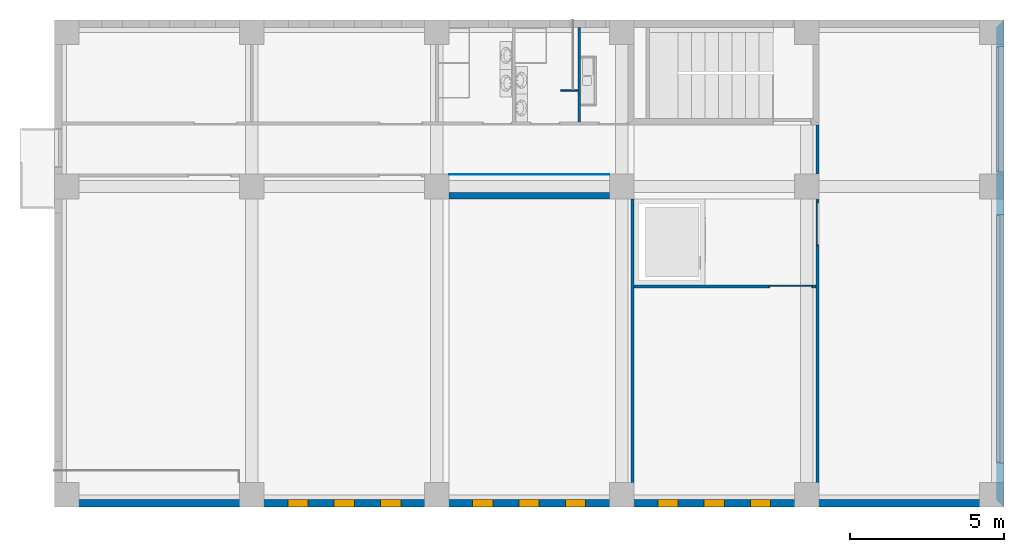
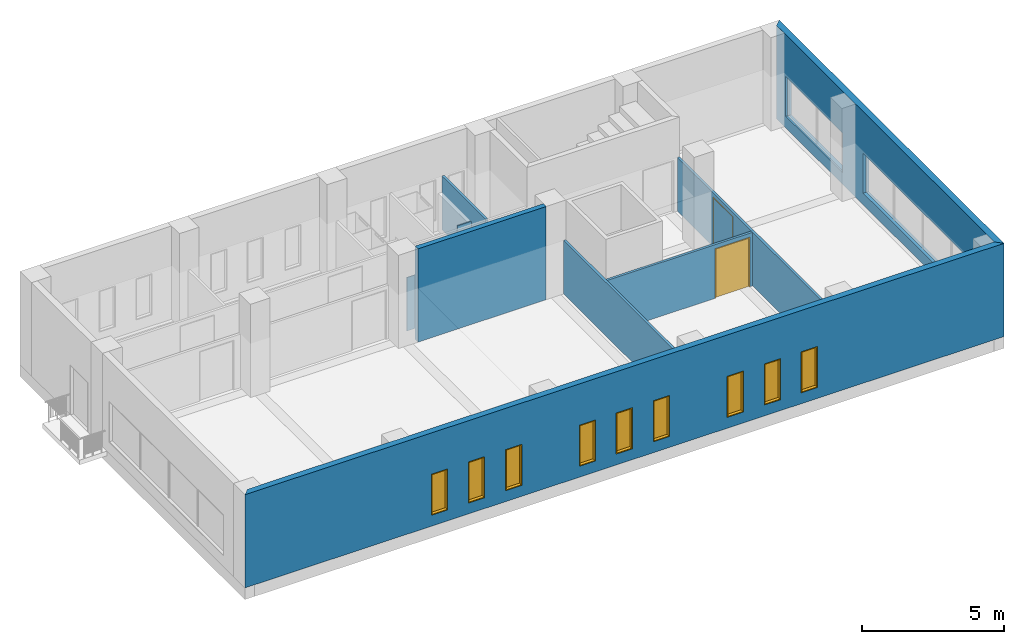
# One storey, part 3 of 14: 9 walls, 9 windows, 2 doors, 13 openings.
"""IFC2X3 building model written with IfcOpenShell, lengths in millimetres."""

from ifc_helpers import new_model, entity, si_unit, converted_unit, direction, frame, origin_with_axes, origin_2d_with_axis, place, context, project, spatial, polyline, rectangle, outline, extrude, open_shell, surface_model, source, transform, mapped, material, layer, layer_set, layer_usage, type_object, element, fill, save


model = new_model("IFC2X3")

# Units and contexts
model_context = context("Model", 3, precision=1e-05, world=origin_with_axes(), true_north=direction((0.0, 1.0)))
ifc_project = project(units=[si_unit("LENGTHUNIT", "METRE", prefix="MILLI"), si_unit("AREAUNIT", "SQUARE_METRE"), si_unit("VOLUMEUNIT", "CUBIC_METRE"), converted_unit("PLANEANGLEUNIT", "DEGREE", entity("IfcPlaneAngleMeasure", 0.017453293), si_unit("PLANEANGLEUNIT", "RADIAN"), dimensions=[0, 0, 0, 0, 0, 0, 0]), si_unit("SOLIDANGLEUNIT", "STERADIAN"), si_unit("MASSUNIT", "GRAM"), si_unit("TIMEUNIT", "SECOND"), si_unit("THERMODYNAMICTEMPERATUREUNIT", "DEGREE_CELSIUS"), si_unit("LUMINOUSINTENSITYUNIT", "LUMEN")], contexts=[model_context])

# Site, building, storey
site_placement = place(None, origin_with_axes())
site = spatial("IfcSite", under=ifc_project, at=site_placement, Name="\x83T\x83C\x83g", CompositionType="ELEMENT")
building_placement = place(site_placement, origin_with_axes())
building = spatial("IfcBuilding", under=site, at=building_placement, Name="Daitec-Sample 201208", CompositionType="ELEMENT")
storey_placement = place(building_placement, frame((0.0, 0.0, 8000.0), z_axis=(0.0, 0.0, 1.0), x_axis=(1.0, 0.0, 0.0)))
storey = spatial("IfcBuildingStorey", under=building, at=storey_placement, Name="3F", CompositionType="ELEMENT", Elevation=8000.0)

# Wall, openings, windows
ifc_material_1 = material(Name="\x83R\x83\x93\x83N\x83\x8a\x81[\x83g-\x8d\\\x91¢2")
ifc_layer_1 = layer(ifc_material_1, 250.0, ventilated="UNKNOWN")
ifc_layer_set_1 = layer_set([ifc_layer_1], Name="\x83R\x83\x93\x83N\x83\x8a\x81[\x83g-\x8d\\\x91¢2 250")
ifc_layer_usage_1 = layer_usage(ifc_layer_set_1, "AXIS2", "POSITIVE", 0.0)
wall_type_1 = type_object("IfcWallType", Name="\x83R\x83\x93\x83N\x83\x8a\x81[\x83g-\x8d\\\x91¢2 250", PredefinedType="NOTDEFINED")
wall_1_placement = place(storey_placement, frame((6100.0, 8000.0, 0.0), z_axis=(0.0, 0.0, 1.0), x_axis=(1.0, 0.0, 0.0)))
wall_1 = element("IfcWallStandardCase", 1, at=wall_1_placement, inside=storey, type_object=wall_type_1, material=ifc_layer_usage_1, Name="W6", context=model_context, shape_type="SweptSolid", body=[
    extrude(outline(polyline([(0.0, 0.0), (30800.0, 0.0), (30550.0, 250.0), (250.0, 250.0), (0.0, 0.0)])), origin_with_axes(), (0.0, 0.0, 1.0), 4000.0),
])
opening_1_placement = place(wall_1_placement, frame((7901.9298, 0.0, 500.0), z_axis=(0.0, 0.0, 1.0), x_axis=(1.0, 0.0, 0.0)))
opening_1 = element("IfcOpeningElement", 2, at=opening_1_placement, cuts=wall_1, context=model_context, shape_type="SweptSolid", body=[
    extrude(rectangle(XDim=600.0, YDim=1700.0, at=origin_2d_with_axis()), frame((0.0, -1.0, 850.0), z_axis=(0.0, 1.0, 0.0), x_axis=(1.0, 0.0, 0.0)), (0.0, 0.0, 1.0), 252.0),
    extrude(rectangle(XDim=600.0, YDim=1700.0, at=origin_2d_with_axis()), frame((0.0, 1.0, 850.0), z_axis=(0.0, -1.0, 0.0), x_axis=(1.0, 0.0, 0.0)), (0.0, 0.0, 1.0), 252.0),
    extrude(rectangle(XDim=660.0, YDim=1760.0, at=origin_2d_with_axis()), frame((0.0, 126.0, 850.0), z_axis=(0.0, -1.0, 0.0), x_axis=(1.0, 0.0, 0.0)), (0.0, 0.0, 1.0), 252.0),
])
opening_2_placement = place(wall_1_placement, frame((9399.6597, 0.0, 500.0), z_axis=(0.0, 0.0, 1.0), x_axis=(1.0, 0.0, 0.0)))
opening_2 = element("IfcOpeningElement", 3, at=opening_2_placement, cuts=wall_1, context=model_context, shape_type="SweptSolid", body=[
    extrude(rectangle(XDim=600.0, YDim=1700.0, at=origin_2d_with_axis()), frame((0.0, 251.0, 850.0), z_axis=(0.0, -1.0, 0.0), x_axis=(1.0, 0.0, 0.0)), (0.0, 0.0, 1.0), 252.0),
    extrude(rectangle(XDim=600.0, YDim=1700.0, at=origin_2d_with_axis()), frame((0.0, 249.0, 850.0), z_axis=(0.0, 1.0, 0.0), x_axis=(1.0, 0.0, 0.0)), (0.0, 0.0, 1.0), 252.0),
    extrude(rectangle(XDim=660.0, YDim=1760.0, at=origin_2d_with_axis()), frame((0.0, 124.0, 850.0), z_axis=(0.0, 1.0, 0.0), x_axis=(1.0, 0.0, 0.0)), (0.0, 0.0, 1.0), 252.0),
])
opening_3_placement = place(wall_1_placement, frame((10907.186, 0.0, 500.0), z_axis=(0.0, 0.0, 1.0), x_axis=(1.0, 0.0, 0.0)))
opening_3 = element("IfcOpeningElement", 4, at=opening_3_placement, cuts=wall_1, context=model_context, shape_type="SweptSolid", body=[
    extrude(rectangle(XDim=600.0, YDim=1700.0, at=origin_2d_with_axis()), frame((0.0, -1.0, 850.0), z_axis=(0.0, 1.0, 0.0), x_axis=(1.0, 0.0, 0.0)), (0.0, 0.0, 1.0), 252.0),
    extrude(rectangle(XDim=600.0, YDim=1700.0, at=origin_2d_with_axis()), frame((0.0, 1.0, 850.0), z_axis=(0.0, -1.0, 0.0), x_axis=(1.0, 0.0, 0.0)), (0.0, 0.0, 1.0), 252.0),
    extrude(rectangle(XDim=660.0, YDim=1760.0, at=origin_2d_with_axis()), frame((0.0, 126.0, 850.0), z_axis=(0.0, -1.0, 0.0), x_axis=(1.0, 0.0, 0.0)), (0.0, 0.0, 1.0), 252.0),
])
opening_4_placement = place(wall_1_placement, frame((13897.963, 0.0, 500.0), z_axis=(0.0, 0.0, 1.0), x_axis=(1.0, 0.0, 0.0)))
opening_4 = element("IfcOpeningElement", 5, at=opening_4_placement, cuts=wall_1, context=model_context, shape_type="SweptSolid", body=[
    extrude(rectangle(XDim=600.0, YDim=1700.0, at=origin_2d_with_axis()), frame((0.0, -1.0, 850.0), z_axis=(0.0, 1.0, 0.0), x_axis=(1.0, 0.0, 0.0)), (0.0, 0.0, 1.0), 252.0),
    extrude(rectangle(XDim=600.0, YDim=1700.0, at=origin_2d_with_axis()), frame((0.0, 1.0, 850.0), z_axis=(0.0, -1.0, 0.0), x_axis=(1.0, 0.0, 0.0)), (0.0, 0.0, 1.0), 252.0),
    extrude(rectangle(XDim=660.0, YDim=1760.0, at=origin_2d_with_axis()), frame((0.0, 126.0, 850.0), z_axis=(0.0, -1.0, 0.0), x_axis=(1.0, 0.0, 0.0)), (0.0, 0.0, 1.0), 252.0),
])
opening_5_placement = place(wall_1_placement, frame((15395.738, 0.0, 500.0), z_axis=(0.0, 0.0, 1.0), x_axis=(1.0, 0.0, 0.0)))
opening_5 = element("IfcOpeningElement", 6, at=opening_5_placement, cuts=wall_1, context=model_context, shape_type="SweptSolid", body=[
    extrude(rectangle(XDim=600.0, YDim=1700.0, at=origin_2d_with_axis()), frame((0.0, -1.0, 850.0), z_axis=(0.0, 1.0, 0.0), x_axis=(1.0, 0.0, 0.0)), (0.0, 0.0, 1.0), 252.0),
    extrude(rectangle(XDim=600.0, YDim=1700.0, at=origin_2d_with_axis()), frame((0.0, 1.0, 850.0), z_axis=(0.0, -1.0, 0.0), x_axis=(1.0, 0.0, 0.0)), (0.0, 0.0, 1.0), 252.0),
    extrude(rectangle(XDim=660.0, YDim=1760.0, at=origin_2d_with_axis()), frame((0.0, 126.0, 850.0), z_axis=(0.0, -1.0, 0.0), x_axis=(1.0, 0.0, 0.0)), (0.0, 0.0, 1.0), 252.0),
])
opening_6_placement = place(wall_1_placement, frame((16903.823, 0.0, 500.0), z_axis=(0.0, 0.0, 1.0), x_axis=(1.0, 0.0, 0.0)))
opening_6 = element("IfcOpeningElement", 7, at=opening_6_placement, cuts=wall_1, context=model_context, shape_type="SweptSolid", body=[
    extrude(rectangle(XDim=600.0, YDim=1700.0, at=origin_2d_with_axis()), frame((0.0, -1.0, 850.0), z_axis=(0.0, 1.0, 0.0), x_axis=(1.0, 0.0, 0.0)), (0.0, 0.0, 1.0), 252.0),
    extrude(rectangle(XDim=600.0, YDim=1700.0, at=origin_2d_with_axis()), frame((0.0, 1.0, 850.0), z_axis=(0.0, -1.0, 0.0), x_axis=(1.0, 0.0, 0.0)), (0.0, 0.0, 1.0), 252.0),
    extrude(rectangle(XDim=660.0, YDim=1760.0, at=origin_2d_with_axis()), frame((0.0, 126.0, 850.0), z_axis=(0.0, -1.0, 0.0), x_axis=(1.0, 0.0, 0.0)), (0.0, 0.0, 1.0), 252.0),
])
opening_7_placement = place(wall_1_placement, frame((19901.783, 0.0, 500.0), z_axis=(0.0, 0.0, 1.0), x_axis=(1.0, 0.0, 0.0)))
opening_7 = element("IfcOpeningElement", 8, at=opening_7_placement, cuts=wall_1, context=model_context, shape_type="SweptSolid", body=[
    extrude(rectangle(XDim=600.0, YDim=1700.0, at=origin_2d_with_axis()), frame((0.0, -1.0, 850.0), z_axis=(0.0, 1.0, 0.0), x_axis=(1.0, 0.0, 0.0)), (0.0, 0.0, 1.0), 252.0),
    extrude(rectangle(XDim=600.0, YDim=1700.0, at=origin_2d_with_axis()), frame((0.0, 1.0, 850.0), z_axis=(0.0, -1.0, 0.0), x_axis=(1.0, 0.0, 0.0)), (0.0, 0.0, 1.0), 252.0),
    extrude(rectangle(XDim=660.0, YDim=1760.0, at=origin_2d_with_axis()), frame((0.0, 126.0, 850.0), z_axis=(0.0, -1.0, 0.0), x_axis=(1.0, 0.0, 0.0)), (0.0, 0.0, 1.0), 252.0),
])
opening_8_placement = place(wall_1_placement, frame((21404.615, 0.0, 500.0), z_axis=(0.0, 0.0, 1.0), x_axis=(1.0, 0.0, 0.0)))
opening_8 = element("IfcOpeningElement", 9, at=opening_8_placement, cuts=wall_1, context=model_context, shape_type="SweptSolid", body=[
    extrude(rectangle(XDim=600.0, YDim=1700.0, at=origin_2d_with_axis()), frame((0.0, -1.0, 850.0), z_axis=(0.0, 1.0, 0.0), x_axis=(1.0, 0.0, 0.0)), (0.0, 0.0, 1.0), 252.0),
    extrude(rectangle(XDim=600.0, YDim=1700.0, at=origin_2d_with_axis()), frame((0.0, 1.0, 850.0), z_axis=(0.0, -1.0, 0.0), x_axis=(1.0, 0.0, 0.0)), (0.0, 0.0, 1.0), 252.0),
    extrude(rectangle(XDim=660.0, YDim=1760.0, at=origin_2d_with_axis()), frame((0.0, 126.0, 850.0), z_axis=(0.0, -1.0, 0.0), x_axis=(1.0, 0.0, 0.0)), (0.0, 0.0, 1.0), 252.0),
])
opening_9_placement = place(wall_1_placement, frame((22900.017, 0.0, 500.0), z_axis=(0.0, 0.0, 1.0), x_axis=(1.0, 0.0, 0.0)))
opening_9 = element("IfcOpeningElement", 10, at=opening_9_placement, cuts=wall_1, context=model_context, shape_type="SweptSolid", body=[
    extrude(rectangle(XDim=600.0, YDim=1700.0, at=origin_2d_with_axis()), frame((0.0, 251.0, 850.0), z_axis=(0.0, -1.0, 0.0), x_axis=(1.0, 0.0, 0.0)), (0.0, 0.0, 1.0), 252.0),
    extrude(rectangle(XDim=600.0, YDim=1700.0, at=origin_2d_with_axis()), frame((0.0, 249.0, 850.0), z_axis=(0.0, 1.0, 0.0), x_axis=(1.0, 0.0, 0.0)), (0.0, 0.0, 1.0), 252.0),
    extrude(rectangle(XDim=660.0, YDim=1760.0, at=origin_2d_with_axis()), frame((0.0, 124.0, 850.0), z_axis=(0.0, 1.0, 0.0), x_axis=(1.0, 0.0, 0.0)), (0.0, 0.0, 1.0), 252.0),
])
ifc_material_2 = material(Name="\x94w\x8ci")
window_style = type_object("IfcWindowStyle", ConstructionType="NOTDEFINED", OperationType="NOTDEFINED", ParameterTakesPrecedence=False, Sizeable=False)
shared_shape_1 = source(origin_with_axes(), model_context, "Body", "SurfaceModel", [
    surface_model("IfcShellBasedSurfaceModel", [(300.0, 125.0, 0.0), (-300.0, 125.0, 0.0), (-300.0, 125.0, 1700.0), (300.0, 125.0, 1700.0), (260.0, 125.0, 40.0), (260.0, 125.0, 1660.0), (-260.0, 125.0, 1660.0), (-260.0, 125.0, 40.0)], [open_shell([[[0, 1, 2, 3], [4, 5, 6, 7]]])]),
    surface_model("IfcShellBasedSurfaceModel", [(260.0, 125.0, 40.0), (-260.0, 125.0, 40.0), (-260.0, 125.0, 1660.0), (260.0, 125.0, 1660.0)], [open_shell([[[0, 1, 2, 3]]])]),
    surface_model("IfcShellBasedSurfaceModel", [(330.0, 250.0, -30.0), (-330.0, 250.0, -30.0), (-330.0, 250.0, 1730.0), (330.0, 250.0, 1730.0), (300.0, 250.0, 0.0), (300.0, 250.0, 1700.0), (-300.0, 250.0, 1700.0), (-300.0, 250.0, 0.0)], [open_shell([[[0, 1, 2, 3], [4, 5, 6, 7]]])]),
    surface_model("IfcShellBasedSurfaceModel", [(330.0, 0.0, -30.0), (-330.0, 0.0, -30.0), (-330.0, 0.0, 1730.0), (330.0, 0.0, 1730.0), (300.0, 0.0, 0.0), (300.0, 0.0, 1700.0), (-300.0, 0.0, 1700.0), (-300.0, 0.0, 0.0)], [open_shell([[[0, 1, 2, 3], [4, 5, 6, 7]]])]),
    surface_model("IfcShellBasedSurfaceModel", [(330.0, 250.0, -30.0), (330.0, 0.0, -30.0), (-330.0, 0.0, -30.0), (-330.0, 250.0, -30.0), (330.0, 250.0, 1730.0), (330.0, 0.0, 1730.0), (-330.0, 0.0, 1730.0), (-330.0, 250.0, 1730.0)], [open_shell([[[0, 1, 2, 3]], [[4, 5, 1, 0]], [[3, 2, 6, 7]], [[7, 6, 5, 4]]])]),
    surface_model("IfcShellBasedSurfaceModel", [(300.0, 250.0, 0.0), (300.0, 0.0, 0.0), (-300.0, 0.0, 0.0), (-300.0, 250.0, 0.0), (300.0, 250.0, 1700.0), (300.0, 0.0, 1700.0), (-300.0, 0.0, 1700.0), (-300.0, 250.0, 1700.0)], [open_shell([[[0, 1, 2, 3]], [[4, 5, 1, 0]], [[3, 2, 6, 7]], [[7, 6, 5, 4]]])]),
])
window_1_placement = place(opening_1_placement, frame((300.0, 0.0, 0.0), z_axis=(0.0, 0.0, 1.0), x_axis=(-1.0, 0.0, 0.0)))
window_1 = element("IfcWindow", 11, at=window_1_placement, inside=storey, type_object=window_style, material=ifc_material_2, Name="AW1", OverallHeight=1700.0, OverallWidth=600.0, context=model_context, shape_type="MappedRepresentation", body=[
    mapped(shared_shape_1, transform((300.0, -250.0, 0.0))),
])
fill(opening_1, window_1)
window_2_placement = place(opening_3_placement, frame((300.0, 0.0, 0.0), z_axis=(0.0, 0.0, 1.0), x_axis=(-1.0, 0.0, 0.0)))
window_2 = element("IfcWindow", 12, at=window_2_placement, inside=storey, type_object=window_style, material=ifc_material_2, Name="AW3", OverallHeight=1700.0, OverallWidth=600.0, context=model_context, shape_type="MappedRepresentation", body=[
    mapped(shared_shape_1, transform((300.0, -250.0, 0.0))),
])
fill(opening_3, window_2)
window_3_placement = place(opening_8_placement, frame((300.0, 0.0, 0.0), z_axis=(0.0, 0.0, 1.0), x_axis=(-1.0, 0.0, 0.0)))
window_3 = element("IfcWindow", 13, at=window_3_placement, inside=storey, type_object=window_style, material=ifc_material_2, Name="AW1", OverallHeight=1700.0, OverallWidth=600.0, context=model_context, shape_type="MappedRepresentation", body=[
    mapped(shared_shape_1, transform((300.0, -250.0, 0.0))),
])
fill(opening_8, window_3)
shared_shape_2 = source(origin_with_axes(), model_context, "Body", "SurfaceModel", [
    surface_model("IfcShellBasedSurfaceModel", [(300.0, -125.0, 0.0), (-300.0, -125.0, 0.0), (-300.0, -125.0, 1700.0), (300.0, -125.0, 1700.0), (260.0, -125.0, 40.0), (260.0, -125.0, 1660.0), (-260.0, -125.0, 1660.0), (-260.0, -125.0, 40.0)], [open_shell([[[0, 1, 2, 3], [4, 5, 6, 7]]])]),
    surface_model("IfcShellBasedSurfaceModel", [(260.0, -125.0, 40.0), (-260.0, -125.0, 40.0), (-260.0, -125.0, 1660.0), (260.0, -125.0, 1660.0)], [open_shell([[[0, 1, 2, 3]]])]),
    surface_model("IfcShellBasedSurfaceModel", [(330.0, 0.0, -30.0), (-330.0, 0.0, -30.0), (-330.0, 0.0, 1730.0), (330.0, 0.0, 1730.0), (300.0, 0.0, 0.0), (300.0, 0.0, 1700.0), (-300.0, 0.0, 1700.0), (-300.0, 0.0, 0.0)], [open_shell([[[0, 1, 2, 3], [4, 5, 6, 7]]])]),
    surface_model("IfcShellBasedSurfaceModel", [(330.0, -250.0, -30.0), (-330.0, -250.0, -30.0), (-330.0, -250.0, 1730.0), (330.0, -250.0, 1730.0), (300.0, -250.0, 0.0), (300.0, -250.0, 1700.0), (-300.0, -250.0, 1700.0), (-300.0, -250.0, 0.0)], [open_shell([[[0, 1, 2, 3], [4, 5, 6, 7]]])]),
    surface_model("IfcShellBasedSurfaceModel", [(330.0, 0.0, -30.0), (330.0, -250.0, -30.0), (-330.0, -250.0, -30.0), (-330.0, 0.0, -30.0), (330.0, 0.0, 1730.0), (330.0, -250.0, 1730.0), (-330.0, -250.0, 1730.0), (-330.0, 0.0, 1730.0)], [open_shell([[[0, 1, 2, 3]], [[4, 5, 1, 0]], [[3, 2, 6, 7]], [[7, 6, 5, 4]]])]),
    surface_model("IfcShellBasedSurfaceModel", [(300.0, 0.0, 0.0), (300.0, -250.0, 0.0), (-300.0, -250.0, 0.0), (-300.0, 0.0, 0.0), (300.0, 0.0, 1700.0), (300.0, -250.0, 1700.0), (-300.0, -250.0, 1700.0), (-300.0, 0.0, 1700.0)], [open_shell([[[0, 1, 2, 3]], [[4, 5, 1, 0]], [[3, 2, 6, 7]], [[7, 6, 5, 4]]])]),
])
window_4_placement = place(opening_2_placement, frame((300.0, 0.0, 0.0), z_axis=(0.0, 0.0, 1.0), x_axis=(-1.0, 0.0, 0.0)))
window_4 = element("IfcWindow", 14, at=window_4_placement, inside=storey, type_object=window_style, material=ifc_material_2, Name="AW2", OverallHeight=1700.0, OverallWidth=600.0, context=model_context, shape_type="MappedRepresentation", body=[
    mapped(shared_shape_2, transform((300.0, -250.0, 0.0), x_axis=(-1.0, 0.0, 0.0), y_axis=(0.0, -1.0, 0.0), z_axis=(0.0, 0.0, 1.0))),
])
fill(opening_2, window_4)
window_5_placement = place(opening_9_placement, frame((300.0, 0.0, 0.0), z_axis=(0.0, 0.0, 1.0), x_axis=(-1.0, 0.0, 0.0)))
window_5 = element("IfcWindow", 15, at=window_5_placement, inside=storey, type_object=window_style, material=ifc_material_2, Name="AW2", OverallHeight=1700.0, OverallWidth=600.0, context=model_context, shape_type="MappedRepresentation", body=[
    mapped(shared_shape_2, transform((300.0, -250.0, 0.0), x_axis=(-1.0, 0.0, 0.0), y_axis=(0.0, -1.0, 0.0), z_axis=(0.0, 0.0, 1.0))),
])
fill(opening_9, window_5)
shared_shape_3 = source(origin_with_axes(), model_context, "Body", "SurfaceModel", [
    surface_model("IfcShellBasedSurfaceModel", [(300.0, -125.0, 0.0), (-300.0, -125.0, 0.0), (-300.0, -125.0, 1700.0), (300.0, -125.0, 1700.0), (260.0, -125.0, 40.0), (260.0, -125.0, 1660.0), (-260.0, -125.0, 1660.0), (-260.0, -125.0, 40.0)], [open_shell([[[0, 1, 2, 3], [4, 5, 6, 7]]])]),
    surface_model("IfcShellBasedSurfaceModel", [(260.0, -125.0, 40.0), (-260.0, -125.0, 40.0), (-260.0, -125.0, 1660.0), (260.0, -125.0, 1660.0)], [open_shell([[[0, 1, 2, 3]]])]),
    surface_model("IfcShellBasedSurfaceModel", [(330.0, 0.0, -30.0), (-330.0, 0.0, -30.0), (-330.0, 0.0, 1730.0), (330.0, 0.0, 1730.0), (300.0, 0.0, 0.0), (300.0, 0.0, 1700.0), (-300.0, 0.0, 1700.0), (-300.0, 0.0, 0.0)], [open_shell([[[0, 1, 2, 3], [4, 5, 6, 7]]])]),
    surface_model("IfcShellBasedSurfaceModel", [(330.0, -250.0, -30.0), (-330.0, -250.0, -30.0), (-330.0, -250.0, 1730.0), (330.0, -250.0, 1730.0), (300.0, -250.0, 0.0), (300.0, -250.0, 1700.0), (-300.0, -250.0, 1700.0), (-300.0, -250.0, 0.0)], [open_shell([[[0, 1, 2, 3], [4, 5, 6, 7]]])]),
    surface_model("IfcShellBasedSurfaceModel", [(330.0, 0.0, -30.0), (330.0, -250.0, -30.0), (-330.0, -250.0, -30.0), (-330.0, 0.0, -30.0), (330.0, 0.0, 1730.0), (330.0, -250.0, 1730.0), (-330.0, -250.0, 1730.0), (-330.0, 0.0, 1730.0)], [open_shell([[[0, 1, 2, 3]], [[4, 5, 1, 0]], [[3, 2, 6, 7]], [[7, 6, 5, 4]]])]),
    surface_model("IfcShellBasedSurfaceModel", [(300.0, 0.0, 0.0), (300.0, -250.0, 0.0), (-300.0, -250.0, 0.0), (-300.0, 0.0, 0.0), (300.0, 0.0, 1700.0), (300.0, -250.0, 1700.0), (-300.0, -250.0, 1700.0), (-300.0, 0.0, 1700.0)], [open_shell([[[0, 1, 2, 3]], [[4, 5, 1, 0]], [[3, 2, 6, 7]], [[7, 6, 5, 4]]])]),
])
window_6_placement = place(opening_4_placement, frame((-300.0, 0.0, 0.0), z_axis=(0.0, 0.0, 1.0), x_axis=(1.0, 0.0, 0.0)))
window_6 = element("IfcWindow", 16, at=window_6_placement, inside=storey, type_object=window_style, material=ifc_material_2, Name="AW4", OverallHeight=1700.0, OverallWidth=600.0, context=model_context, shape_type="MappedRepresentation", body=[
    mapped(shared_shape_3, transform((300.0, 0.0, 0.0), x_axis=(-1.0, 0.0, 0.0), y_axis=(0.0, -1.0, 0.0), z_axis=(0.0, 0.0, 1.0))),
])
fill(opening_4, window_6)
window_7_placement = place(opening_5_placement, frame((-300.0, 0.0, 0.0), z_axis=(0.0, 0.0, 1.0), x_axis=(1.0, 0.0, 0.0)))
window_7 = element("IfcWindow", 17, at=window_7_placement, inside=storey, type_object=window_style, material=ifc_material_2, Name="AW5", OverallHeight=1700.0, OverallWidth=600.0, context=model_context, shape_type="MappedRepresentation", body=[
    mapped(shared_shape_3, transform((300.0, 0.0, 0.0), x_axis=(-1.0, 0.0, 0.0), y_axis=(0.0, -1.0, 0.0), z_axis=(0.0, 0.0, 1.0))),
])
fill(opening_5, window_7)
window_8_placement = place(opening_6_placement, frame((-300.0, 0.0, 0.0), z_axis=(0.0, 0.0, 1.0), x_axis=(1.0, 0.0, 0.0)))
window_8 = element("IfcWindow", 18, at=window_8_placement, inside=storey, type_object=window_style, material=ifc_material_2, Name="AW6", OverallHeight=1700.0, OverallWidth=600.0, context=model_context, shape_type="MappedRepresentation", body=[
    mapped(shared_shape_3, transform((300.0, 0.0, 0.0), x_axis=(-1.0, 0.0, 0.0), y_axis=(0.0, -1.0, 0.0), z_axis=(0.0, 0.0, 1.0))),
])
fill(opening_6, window_8)
window_9_placement = place(opening_7_placement, frame((-300.0, 0.0, 0.0), z_axis=(0.0, 0.0, 1.0), x_axis=(1.0, 0.0, 0.0)))
window_9 = element("IfcWindow", 19, at=window_9_placement, inside=storey, type_object=window_style, material=ifc_material_2, Name="AW0", OverallHeight=1700.0, OverallWidth=600.0, context=model_context, shape_type="MappedRepresentation", body=[
    mapped(shared_shape_3, transform((300.0, 0.0, 0.0), x_axis=(-1.0, 0.0, 0.0), y_axis=(0.0, -1.0, 0.0), z_axis=(0.0, 0.0, 1.0))),
])
fill(opening_7, window_9)

# Wall, openings
ifc_layer_usage_2 = layer_usage(ifc_layer_set_1, "AXIS2", "POSITIVE", 0.0)
wall_2_placement = place(storey_placement, frame((36900.0, 8000.0, 0.0), z_axis=(0.0, 0.0, 1.0), x_axis=(0.0, 1.0, 0.0)))
wall_2 = element("IfcWallStandardCase", 20, at=wall_2_placement, inside=storey, type_object=wall_type_1, material=ifc_layer_usage_2, Name="W7", context=model_context, shape_type="SweptSolid", body=[
    extrude(outline(polyline([(0.0, 0.0), (15800.0, 0.0), (15550.0, 250.0), (250.0, 250.0), (0.0, 0.0)])), origin_with_axes(), (0.0, 0.0, 1.0), 4000.0),
])
opening_10_placement = place(wall_2_placement, frame((5462.7727, 0.0, 500.0), z_axis=(0.0, 0.0, 1.0), x_axis=(1.0, 0.0, 0.0)))
element("IfcOpeningElement", 21, at=opening_10_placement, cuts=wall_2, context=model_context, shape_type="SweptSolid", body=[
    extrude(rectangle(XDim=8000.0, YDim=1700.0, at=origin_2d_with_axis()), frame((0.0, -1.0, 850.0), z_axis=(0.0, 1.0, 0.0), x_axis=(1.0, 0.0, 0.0)), (0.0, 0.0, 1.0), 252.0),
    extrude(rectangle(XDim=8000.0, YDim=1700.0, at=origin_2d_with_axis()), frame((0.0, 1.0, 850.0), z_axis=(0.0, -1.0, 0.0), x_axis=(1.0, 0.0, 0.0)), (0.0, 0.0, 1.0), 252.0),
    extrude(rectangle(XDim=8060.0, YDim=1760.0, at=origin_2d_with_axis()), frame((0.0, 126.0, 850.0), z_axis=(0.0, -1.0, 0.0), x_axis=(1.0, 0.0, 0.0)), (0.0, 0.0, 1.0), 252.0),
])
opening_11_placement = place(wall_2_placement, frame((12905.211, 0.0, 500.0), z_axis=(0.0, 0.0, 1.0), x_axis=(1.0, 0.0, 0.0)))
element("IfcOpeningElement", 22, at=opening_11_placement, cuts=wall_2, context=model_context, shape_type="SweptSolid", body=[
    extrude(rectangle(XDim=4000.0, YDim=1700.0, at=origin_2d_with_axis()), frame((0.0, 59.0, 850.0), z_axis=(0.0, 1.0, 0.0), x_axis=(1.0, 0.0, 0.0)), (0.0, 0.0, 1.0), 252.0),
    extrude(rectangle(XDim=4000.0, YDim=1700.0, at=origin_2d_with_axis()), frame((0.0, 61.0, 850.0), z_axis=(0.0, -1.0, 0.0), x_axis=(1.0, 0.0, 0.0)), (0.0, 0.0, 1.0), 252.0),
    extrude(rectangle(XDim=4060.0, YDim=1760.0, at=origin_2d_with_axis()), frame((0.0, 186.0, 850.0), z_axis=(0.0, -1.0, 0.0), x_axis=(1.0, 0.0, 0.0)), (0.0, 0.0, 1.0), 252.0),
])

# Wall, opening, door
ifc_material_3 = material(Name="\x83v\x83\x89\x83X\x83^\x81[\x83{\x81[\x83h")
ifc_layer_2 = layer(ifc_material_3, 15.0, ventilated="UNKNOWN")
ifc_material_4 = material(Name="00_LGS")
ifc_layer_3 = layer(ifc_material_4, 65.0, ventilated="UNKNOWN")
ifc_layer_4 = layer(ifc_material_3, 15.0, ventilated="UNKNOWN")
ifc_layer_set_2 = layer_set([ifc_layer_2, ifc_layer_3, ifc_layer_4])
ifc_layer_usage_3 = layer_usage(ifc_layer_set_2, "AXIS2", "NEGATIVE", 0.0)
wall_type_2 = type_object("IfcWallType", PredefinedType="NOTDEFINED")
wall_3_placement = place(storey_placement, frame((24900.0, 15200.0, 0.0), z_axis=(0.0, 0.0, 1.0), x_axis=(1.0, 0.0, 0.0)))
wall_3 = element("IfcWallStandardCase", 23, at=wall_3_placement, inside=storey, type_object=wall_type_2, material=ifc_layer_usage_3, Name="W8", context=model_context, shape_type="SweptSolid", body=[
    extrude(outline(polyline([(0.0, -95.0), (5905.0, -95.0), (5905.0, 0.0), (0.0, 0.0), (0.0, -95.0)])), origin_with_axes(), (0.0, 0.0, 1.0), 2300.0),
])
opening_12_placement = place(wall_3_placement, frame((5087.0218, 0.0, 0.0), z_axis=(0.0, 0.0, 1.0), x_axis=(1.0, 0.0, 0.0)))
opening_12 = element("IfcOpeningElement", 24, at=opening_12_placement, cuts=wall_3, context=model_context, shape_type="SweptSolid", body=[
    extrude(rectangle(XDim=1410.0, YDim=2130.0, at=origin_2d_with_axis()), frame((0.0, -46.5, 1065.0), z_axis=(0.0, -1.0, 0.0), x_axis=(1.0, 0.0, 0.0)), (0.0, 0.0, 1.0), 97.0),
])
door_style = type_object("IfcDoorStyle", Name="\x90e\x8eq\x8aJ\x82«\x8cË_JX5", ConstructionType="NOTDEFINED", OperationType="NOTDEFINED", ParameterTakesPrecedence=False, Sizeable=False)
door_1_placement = place(opening_12_placement, frame((-675.0, 0.0, 0.0), z_axis=(0.0, 0.0, 1.0), x_axis=(1.0, 0.0, 0.0)))
door_1 = element("IfcDoor", 25, at=door_1_placement, inside=storey, type_object=door_style, material=ifc_material_2, Name="SD1", OverallHeight=2100.0, OverallWidth=1350.0, context=model_context, shape_type="SurfaceModel", body=[
    surface_model("IfcShellBasedSurfaceModel", [(900.0, -47.5, 0.0), (900.0, -47.5, 2100.0), (0.0, -47.5, 2100.0), (0.0, -47.5, 0.0)], [open_shell([[[0, 1, 2, 3]]])]),
    surface_model("IfcShellBasedSurfaceModel", [(900.0, -47.5, 0.0), (1350.0, -47.5, 0.0), (1350.0, -47.5, 2100.0), (900.0, -47.5, 2100.0)], [open_shell([[[0, 1, 2, 3]]])]),
    surface_model("IfcShellBasedSurfaceModel", [(1380.0, -95.0, 0.0), (1380.0, -95.0, 2130.0), (-30.0, -95.0, 2130.0), (-30.0, -95.0, 0.0), (0.0, -95.0, 0.0), (0.0, -95.0, 2100.0), (1350.0, -95.0, 2100.0), (1350.0, -95.0, 0.0)], [open_shell([[[0, 1, 2, 3, 4, 5, 6, 7]]])]),
    surface_model("IfcShellBasedSurfaceModel", [(1380.0, 0.0, 0.0), (1380.0, 0.0, 2130.0), (-30.0, 0.0, 2130.0), (-30.0, 0.0, 0.0), (0.0, 0.0, 0.0), (0.0, 0.0, 2100.0), (1350.0, 0.0, 2100.0), (1350.0, 0.0, 0.0)], [open_shell([[[0, 1, 2, 3, 4, 5, 6, 7]]])]),
    surface_model("IfcShellBasedSurfaceModel", [(1350.0, -95.0, 0.0), (1350.0, -95.0, 2100.0), (1350.0, 0.0, 2100.0), (1350.0, 0.0, 0.0), (0.0, -95.0, 2100.0), (0.0, 0.0, 2100.0), (1380.0, -95.0, 0.0), (1380.0, 0.0, 0.0), (0.0, -95.0, 0.0), (0.0, 0.0, 0.0), (1380.0, -95.0, 2130.0), (1380.0, 0.0, 2130.0), (-30.0, -95.0, 0.0), (-30.0, 0.0, 0.0), (-30.0, -95.0, 2130.0), (-30.0, 0.0, 2130.0)], [open_shell([[[0, 1, 2, 3]], [[1, 4, 5, 2]], [[6, 0, 3, 7]], [[4, 8, 9, 5]], [[10, 6, 7, 11]], [[8, 12, 13, 9]], [[14, 10, 11, 15]], [[12, 14, 15, 13]]])]),
])
fill(opening_12, door_1)

# Walls
ifc_layer_usage_4 = layer_usage(ifc_layer_set_2, "AXIS2", "NEGATIVE", 47.5)
wall_4_placement = place(storey_placement, frame((23123.718, 23800.0, 0.0), z_axis=(0.0, 0.0, 1.0), x_axis=(0.0, -1.0, 0.0)))
element("IfcWallStandardCase", 26, at=wall_4_placement, inside=storey, type_object=wall_type_2, material=ifc_layer_usage_4, Name="W7", context=model_context, shape_type="SweptSolid", body=[
    extrude(outline(polyline([(250.0, -47.5), (3304.8739, -47.5), (3304.8739, 47.5), (250.0, 47.5), (250.0, -47.5)])), origin_with_axes(), (0.0, 0.0, 1.0), 2300.0),
])
ifc_layer_usage_5 = layer_usage(ifc_layer_set_2, "AXIS2", "NEGATIVE", 0.0)
wall_5_placement = place(storey_placement, frame((24900.0, 18000.0, 0.0), z_axis=(0.0, 0.0, 1.0), x_axis=(0.0, -1.0, 0.0)))
element("IfcWallStandardCase", 27, at=wall_5_placement, inside=storey, type_object=wall_type_2, material=ifc_layer_usage_5, Name="W2", context=model_context, shape_type="SweptSolid", body=[
    extrude(outline(polyline([(0.0, -95.0), (9200.0, -95.0), (9200.0, 0.0), (0.0, 0.0), (0.0, -95.0)])), origin_with_axes(), (0.0, 0.0, 1.0), 2300.0),
])

# Wall, opening, door
ifc_layer_usage_6 = layer_usage(ifc_layer_set_2, "AXIS2", "NEGATIVE", 0.0)
wall_6_placement = place(storey_placement, frame((30900.0, 20399.909, 0.0), z_axis=(0.0, 0.0, 1.0), x_axis=(0.0, -1.0, 0.0)))
wall_6 = element("IfcWallStandardCase", 28, at=wall_6_placement, inside=storey, type_object=wall_type_2, material=ifc_layer_usage_6, Name="W1", context=model_context, shape_type="SweptSolid", body=[
    extrude(outline(polyline([(0.0, -95.0), (11599.909, -95.0), (11599.909, 0.0), (0.0, 0.0), (0.0, -95.0)])), origin_with_axes(), (0.0, 0.0, 1.0), 2300.0),
])
opening_13_placement = place(wall_6_placement, frame((3207.689, 0.0, 0.0), z_axis=(0.0, 0.0, 1.0), x_axis=(1.0, 0.0, 0.0)))
opening_13 = element("IfcOpeningElement", 29, at=opening_13_placement, cuts=wall_6, context=model_context, shape_type="SweptSolid", body=[
    extrude(rectangle(XDim=1410.0, YDim=2130.0, at=origin_2d_with_axis()), frame((0.0, -48.5, 1065.0), z_axis=(0.0, 1.0, 0.0), x_axis=(1.0, 0.0, 0.0)), (0.0, 0.0, 1.0), 97.0),
])
door_2_placement = place(opening_13_placement, frame((675.0, 0.0, 0.0), z_axis=(0.0, 0.0, 1.0), x_axis=(-1.0, 0.0, 0.0)))
door_2 = element("IfcDoor", 30, at=door_2_placement, inside=storey, type_object=door_style, material=ifc_material_2, Name="SD2", OverallHeight=2100.0, OverallWidth=1350.0, context=model_context, shape_type="SurfaceModel", body=[
    surface_model("IfcShellBasedSurfaceModel", [(900.0, 47.5, 0.0), (900.0, 47.5, 2100.0), (0.0, 47.5, 2100.0), (0.0, 47.5, 0.0)], [open_shell([[[0, 1, 2, 3]]])]),
    surface_model("IfcShellBasedSurfaceModel", [(900.0, 47.5, 0.0), (1350.0, 47.5, 0.0), (1350.0, 47.5, 2100.0), (900.0, 47.5, 2100.0)], [open_shell([[[0, 1, 2, 3]]])]),
    surface_model("IfcShellBasedSurfaceModel", [(1380.0, 0.0, 0.0), (1380.0, 0.0, 2130.0), (-30.0, 0.0, 2130.0), (-30.0, 0.0, 0.0), (0.0, 0.0, 0.0), (0.0, 0.0, 2100.0), (1350.0, 0.0, 2100.0), (1350.0, 0.0, 0.0)], [open_shell([[[0, 1, 2, 3, 4, 5, 6, 7]]])]),
    surface_model("IfcShellBasedSurfaceModel", [(1380.0, 95.0, 0.0), (1380.0, 95.0, 2130.0), (-30.0, 95.0, 2130.0), (-30.0, 95.0, 0.0), (0.0, 95.0, 0.0), (0.0, 95.0, 2100.0), (1350.0, 95.0, 2100.0), (1350.0, 95.0, 0.0)], [open_shell([[[0, 1, 2, 3, 4, 5, 6, 7]]])]),
    surface_model("IfcShellBasedSurfaceModel", [(1350.0, 0.0, 0.0), (1350.0, 0.0, 2100.0), (1350.0, 95.0, 2100.0), (1350.0, 95.0, 0.0), (0.0, 0.0, 2100.0), (0.0, 95.0, 2100.0), (1380.0, 0.0, 0.0), (1380.0, 95.0, 0.0), (0.0, 0.0, 0.0), (0.0, 95.0, 0.0), (1380.0, 0.0, 2130.0), (1380.0, 95.0, 2130.0), (-30.0, 0.0, 0.0), (-30.0, 95.0, 0.0), (-30.0, 0.0, 2130.0), (-30.0, 95.0, 2130.0)], [open_shell([[[0, 1, 2, 3]], [[1, 4, 5, 2]], [[6, 0, 3, 7]], [[4, 8, 9, 5]], [[10, 6, 7, 11]], [[8, 12, 13, 9]], [[14, 10, 11, 15]], [[12, 14, 15, 13]]])]),
])
fill(opening_13, door_2)

# Walls
ifc_material_5 = material(Name="\x83X\x83`\x81[\x83\x8b")
ifc_layer_5 = layer(ifc_material_5, 20.0, ventilated="UNKNOWN")
ifc_layer_set_3 = layer_set([ifc_layer_5], Name="\x83X\x83`\x81[\x83\x8b 20")
ifc_layer_usage_7 = layer_usage(ifc_layer_set_3, "AXIS2", "NEGATIVE", 0.0)
wall_type_3 = type_object("IfcWallType", Name="\x83X\x83`\x81[\x83\x8b 20", PredefinedType="NOTDEFINED")
wall_7_placement = place(storey_placement, frame((18900.0, 18800.0, 0.0), z_axis=(0.0, 0.0, 1.0), x_axis=(1.0, 0.0, 0.0)))
element("IfcWallStandardCase", 31, at=wall_7_placement, inside=storey, type_object=wall_type_3, material=ifc_layer_usage_7, Name="W6", context=model_context, shape_type="SweptSolid", body=[
    extrude(outline(polyline([(0.0, -20.0), (5200.0, -20.0), (5200.0, 0.0), (0.0, 0.0), (0.0, -20.0)])), origin_with_axes(), (0.0, 0.0, 1.0), 2300.0),
])
ifc_layer_6 = layer(ifc_material_1, 200.0, ventilated="UNKNOWN")
ifc_layer_set_4 = layer_set([ifc_layer_6], Name="\x83R\x83\x93\x83N\x83\x8a\x81[\x83g-\x8d\\\x91¢2 200")
ifc_layer_usage_8 = layer_usage(ifc_layer_set_4, "AXIS2", "POSITIVE", 0.0)
wall_type_4 = type_object("IfcWallType", Name="\x83R\x83\x93\x83N\x83\x8a\x81[\x83g-\x8d\\\x91¢2 200", PredefinedType="NOTDEFINED")
wall_8_placement = place(storey_placement, frame((18900.0, 18000.0, 0.0), z_axis=(0.0, 0.0, 1.0), x_axis=(1.0, 0.0, 0.0)))
element("IfcWallStandardCase", 32, at=wall_8_placement, inside=storey, type_object=wall_type_4, material=ifc_layer_usage_8, Name="W5", context=model_context, shape_type="SweptSolid", body=[
    extrude(outline(polyline([(0.0, 0.0), (5200.0, 0.0), (5200.0, 200.0), (0.0, 200.0), (0.0, 0.0)])), origin_with_axes(), (0.0, 0.0, 1.0), 4000.0),
])
ifc_material_6 = material(Name="\x83R\x83\x93\x83N\x83\x8a\x81[\x83g-\x8cy\x97Ê")
ifc_layer_7 = layer(ifc_material_6, 50.0, ventilated="UNKNOWN")
ifc_layer_set_5 = layer_set([ifc_layer_7], Name="\x83R\x83\x93\x83N\x83\x8a\x81[\x83g-\x8cy\x97Ê 50")
ifc_layer_usage_9 = layer_usage(ifc_layer_set_5, "AXIS2", "POSITIVE", 0.0)
wall_type_5 = type_object("IfcWallType", Name="\x83R\x83\x93\x83N\x83\x8a\x81[\x83g-\x8cy\x97Ê 50", PredefinedType="NOTDEFINED")
wall_9_placement = place(storey_placement, frame((23123.718, 21540.0, 0.0), z_axis=(0.0, 0.0, 1.0), x_axis=(-1.0, 0.0, 0.0)))
element("IfcWallStandardCase", 33, at=wall_9_placement, inside=storey, type_object=wall_type_5, material=ifc_layer_usage_9, Name="W3", context=model_context, shape_type="SweptSolid", body=[
    extrude(outline(polyline([(47.5, 0.0), (600.0, 0.0), (600.0, 50.0), (47.5, 50.0), (47.5, 0.0)])), origin_with_axes(), (0.0, 0.0, 1.0), 1600.0),
])

save(model, "model.ifc")
